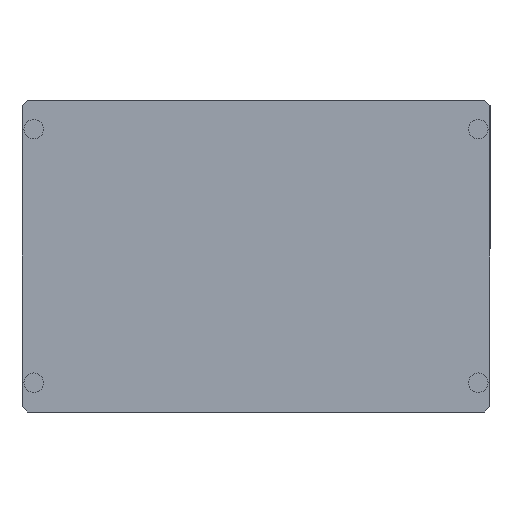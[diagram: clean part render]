
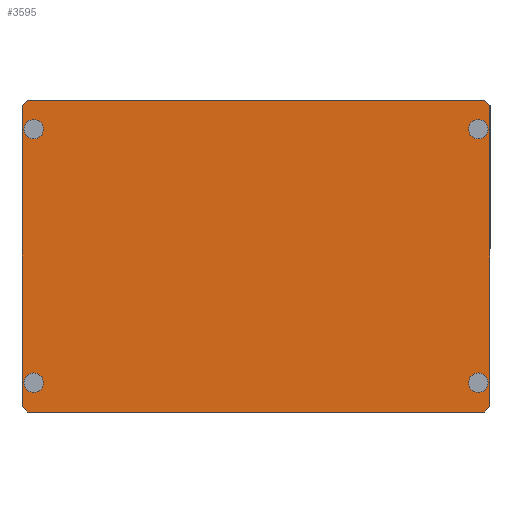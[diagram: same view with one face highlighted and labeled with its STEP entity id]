
A CAD part, front view. The second image highlights one B-rep face of the part: STEP entity #3595.
In plain terms, the highlighted planar face has unit normal (0, -1, 0).
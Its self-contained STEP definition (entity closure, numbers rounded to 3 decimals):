
#41 = EDGE_CURVE ( 'NONE', #991, #842, #3730, .T. ) ;
#47 = CARTESIAN_POINT ( 'NONE',  ( 114., 0., -60. ) ) ;
#71 = CIRCLE ( 'NONE', #2776, 5. ) ;
#79 = EDGE_CURVE ( 'NONE', #4284, #946, #5386, .T. ) ;
#85 = ORIENTED_EDGE ( 'NONE', *, *, #214, .F. ) ;
#110 = EDGE_CURVE ( 'NONE', #5429, #881, #71, .T. ) ;
#131 = EDGE_CURVE ( 'NONE', #946, #4284, #4177, .T. ) ;
#132 = EDGE_LOOP ( 'NONE', ( #5354, #4889 ) ) ;
#136 = CARTESIAN_POINT ( 'NONE',  ( -114., 0., 60. ) ) ;
#138 = EDGE_CURVE ( 'NONE', #3931, #4730, #944, .T. ) ;
#149 = EDGE_CURVE ( 'NONE', #3931, #3259, #4018, .T. ) ;
#182 = EDGE_CURVE ( 'NONE', #1666, #3259, #5243, .T. ) ;
#191 = CARTESIAN_POINT ( 'NONE',  ( 117., 0., -80. ) ) ;
#196 = EDGE_CURVE ( 'NONE', #1666, #5067, #3895, .T. ) ;
#214 = EDGE_CURVE ( 'NONE', #656, #5067, #406, .T. ) ;
#241 = EDGE_CURVE ( 'NONE', #656, #4627, #3792, .T. ) ;
#250 = EDGE_CURVE ( 'NONE', #4287, #4627, #4862, .T. ) ;
#260 = VECTOR ( 'NONE', #343, 1000. ) ;
#271 = EDGE_CURVE ( 'NONE', #4287, #4730, #2457, .T. ) ;
#283 = EDGE_CURVE ( 'NONE', #842, #991, #1289, .T. ) ;
#294 = EDGE_CURVE ( 'NONE', #1346, #3802, #1142, .T. ) ;
#296 = PLANE ( 'NONE',  #4334 ) ;
#313 = DIRECTION ( 'NONE',  ( 0., 0., -1. ) ) ;
#332 = CARTESIAN_POINT ( 'NONE',  ( 114., 0., 65. ) ) ;
#343 = DIRECTION ( 'NONE',  ( 0.707, 0., -0.707 ) ) ;
#406 = LINE ( 'NONE', #5107, #4738 ) ;
#413 = DIRECTION ( 'NONE',  ( 0., 0., 1. ) ) ;
#525 = VECTOR ( 'NONE', #3454, 1000. ) ;
#604 = CARTESIAN_POINT ( 'NONE',  ( -120., 0., -77. ) ) ;
#630 = DIRECTION ( 'NONE',  ( 0., -1., 0. ) ) ;
#654 = VECTOR ( 'NONE', #3740, 1000. ) ;
#656 = VERTEX_POINT ( 'NONE', #604 ) ;
#660 = CARTESIAN_POINT ( 'NONE',  ( 120., 0., -77. ) ) ;
#811 = ORIENTED_EDGE ( 'NONE', *, *, #4170, .F. ) ;
#818 = DIRECTION ( 'NONE',  ( 0., -1., 0. ) ) ;
#825 = CARTESIAN_POINT ( 'NONE',  ( -117., 0., -80. ) ) ;
#842 = VERTEX_POINT ( 'NONE', #47 ) ;
#881 = VERTEX_POINT ( 'NONE', #136 ) ;
#902 = CARTESIAN_POINT ( 'NONE',  ( -114., 0., 65. ) ) ;
#914 = ORIENTED_EDGE ( 'NONE', *, *, #294, .F. ) ;
#944 = LINE ( 'NONE', #2930, #1983 ) ;
#946 = VERTEX_POINT ( 'NONE', #3906 ) ;
#991 = VERTEX_POINT ( 'NONE', #4471 ) ;
#1005 = ORIENTED_EDGE ( 'NONE', *, *, #271, .T. ) ;
#1142 = CIRCLE ( 'NONE', #3696, 5. ) ;
#1188 = DIRECTION ( 'NONE',  ( 0., -1., 0. ) ) ;
#1222 = DIRECTION ( 'NONE',  ( 1., 0., 0. ) ) ;
#1238 = DIRECTION ( 'NONE',  ( 0., -1., 0. ) ) ;
#1278 = CARTESIAN_POINT ( 'NONE',  ( 114., 0., 65. ) ) ;
#1289 = CIRCLE ( 'NONE', #4715, 5. ) ;
#1296 = ORIENTED_EDGE ( 'NONE', *, *, #138, .F. ) ;
#1337 = DIRECTION ( 'NONE',  ( 0., 0., 1. ) ) ;
#1346 = VERTEX_POINT ( 'NONE', #3606 ) ;
#1529 = EDGE_LOOP ( 'NONE', ( #914, #5099 ) ) ;
#1629 = DIRECTION ( 'NONE',  ( 0., 0., 1. ) ) ;
#1644 = CARTESIAN_POINT ( 'NONE',  ( 120., 0., 77. ) ) ;
#1666 = VERTEX_POINT ( 'NONE', #4126 ) ;
#1693 = ORIENTED_EDGE ( 'NONE', *, *, #241, .T. ) ;
#1731 = DIRECTION ( 'NONE',  ( 0., 0., 1. ) ) ;
#1796 = CIRCLE ( 'NONE', #3752, 5. ) ;
#1983 = VECTOR ( 'NONE', #313, 1000. ) ;
#2008 = ORIENTED_EDGE ( 'NONE', *, *, #182, .F. ) ;
#2102 = CARTESIAN_POINT ( 'NONE',  ( -120., 0., -80. ) ) ;
#2122 = DIRECTION ( 'NONE',  ( 0.707, 0., 0.707 ) ) ;
#2296 = ORIENTED_EDGE ( 'NONE', *, *, #41, .F. ) ;
#2328 = EDGE_LOOP ( 'NONE', ( #1296, #2505, #2008, #2700, #85, #1693, #4630, #1005 ) ) ;
#2398 = AXIS2_PLACEMENT_3D ( 'NONE', #332, #3324, #3316 ) ;
#2457 = LINE ( 'NONE', #4969, #4628 ) ;
#2505 = ORIENTED_EDGE ( 'NONE', *, *, #149, .T. ) ;
#2667 = CARTESIAN_POINT ( 'NONE',  ( -117., 0., 80. ) ) ;
#2681 = FACE_OUTER_BOUND ( 'NONE', #2328, .T. ) ;
#2700 = ORIENTED_EDGE ( 'NONE', *, *, #196, .T. ) ;
#2776 = AXIS2_PLACEMENT_3D ( 'NONE', #3713, #1188, #4118 ) ;
#2798 = FACE_BOUND ( 'NONE', #4185, .T. ) ;
#2825 = CARTESIAN_POINT ( 'NONE',  ( 117., 0., 80. ) ) ;
#2834 = VECTOR ( 'NONE', #1222, 1000. ) ;
#2870 = CARTESIAN_POINT ( 'NONE',  ( -114., 0., 70. ) ) ;
#2897 = CARTESIAN_POINT ( 'NONE',  ( 120., 0., 77. ) ) ;
#2930 = CARTESIAN_POINT ( 'NONE',  ( 120., 0., -80. ) ) ;
#3000 = DIRECTION ( 'NONE',  ( 0., -1., 0. ) ) ;
#3097 = VECTOR ( 'NONE', #5369, 1000. ) ;
#3211 = CARTESIAN_POINT ( 'NONE',  ( -114., 0., -65. ) ) ;
#3259 = VERTEX_POINT ( 'NONE', #2825 ) ;
#3316 = DIRECTION ( 'NONE',  ( 0., 0., 1. ) ) ;
#3319 = AXIS2_PLACEMENT_3D ( 'NONE', #5423, #3000, #413 ) ;
#3324 = DIRECTION ( 'NONE',  ( 0., -1., 0. ) ) ;
#3367 = CARTESIAN_POINT ( 'NONE',  ( -114., 0., -65. ) ) ;
#3432 = AXIS2_PLACEMENT_3D ( 'NONE', #1278, #4208, #1731 ) ;
#3449 = EDGE_CURVE ( 'NONE', #3802, #1346, #4266, .T. ) ;
#3454 = DIRECTION ( 'NONE',  ( -0.707, 0., -0.707 ) ) ;
#3470 = DIRECTION ( 'NONE',  ( 0., 0., 1. ) ) ;
#3595 = ADVANCED_FACE ( 'NONE', ( #2798, #4707, #2681, #4822, #3608 ), #296, .F. ) ;
#3606 = CARTESIAN_POINT ( 'NONE',  ( -114., 0., -60. ) ) ;
#3608 = FACE_BOUND ( 'NONE', #1529, .T. ) ;
#3613 = DIRECTION ( 'NONE',  ( 0., 0., 1. ) ) ;
#3696 = AXIS2_PLACEMENT_3D ( 'NONE', #3367, #818, #3777 ) ;
#3713 = CARTESIAN_POINT ( 'NONE',  ( -114., 0., 65. ) ) ;
#3730 = CIRCLE ( 'NONE', #3319, 5. ) ;
#3740 = DIRECTION ( 'NONE',  ( -1., 0., 0. ) ) ;
#3752 = AXIS2_PLACEMENT_3D ( 'NONE', #902, #3845, #1337 ) ;
#3762 = CARTESIAN_POINT ( 'NONE',  ( 114., 0., -65. ) ) ;
#3777 = DIRECTION ( 'NONE',  ( 0., 0., 1. ) ) ;
#3792 = LINE ( 'NONE', #5355, #260 ) ;
#3802 = VERTEX_POINT ( 'NONE', #4615 ) ;
#3845 = DIRECTION ( 'NONE',  ( 0., -1., 0. ) ) ;
#3884 = CARTESIAN_POINT ( 'NONE',  ( 114., 0., 60. ) ) ;
#3895 = LINE ( 'NONE', #2667, #525 ) ;
#3906 = CARTESIAN_POINT ( 'NONE',  ( 114., 0., 70. ) ) ;
#3931 = VERTEX_POINT ( 'NONE', #2897 ) ;
#4018 = LINE ( 'NONE', #1644, #3097 ) ;
#4117 = DIRECTION ( 'NONE',  ( 0., 1., 0. ) ) ;
#4118 = DIRECTION ( 'NONE',  ( 0., 0., 1. ) ) ;
#4126 = CARTESIAN_POINT ( 'NONE',  ( -117., 0., 80. ) ) ;
#4153 = CARTESIAN_POINT ( 'NONE',  ( -120., 0., 80. ) ) ;
#4168 = DIRECTION ( 'NONE',  ( 0., 0., 1. ) ) ;
#4170 = EDGE_CURVE ( 'NONE', #881, #5429, #1796, .T. ) ;
#4177 = CIRCLE ( 'NONE', #2398, 5. ) ;
#4185 = EDGE_LOOP ( 'NONE', ( #4457, #811 ) ) ;
#4208 = DIRECTION ( 'NONE',  ( 0., -1., 0. ) ) ;
#4266 = CIRCLE ( 'NONE', #4562, 5. ) ;
#4284 = VERTEX_POINT ( 'NONE', #3884 ) ;
#4287 = VERTEX_POINT ( 'NONE', #191 ) ;
#4305 = ORIENTED_EDGE ( 'NONE', *, *, #283, .F. ) ;
#4334 = AXIS2_PLACEMENT_3D ( 'NONE', #4918, #4117, #1629 ) ;
#4457 = ORIENTED_EDGE ( 'NONE', *, *, #110, .F. ) ;
#4471 = CARTESIAN_POINT ( 'NONE',  ( 114., 0., -70. ) ) ;
#4562 = AXIS2_PLACEMENT_3D ( 'NONE', #3211, #630, #3613 ) ;
#4615 = CARTESIAN_POINT ( 'NONE',  ( -114., 0., -70. ) ) ;
#4627 = VERTEX_POINT ( 'NONE', #825 ) ;
#4628 = VECTOR ( 'NONE', #2122, 1000. ) ;
#4630 = ORIENTED_EDGE ( 'NONE', *, *, #250, .F. ) ;
#4707 = FACE_BOUND ( 'NONE', #132, .T. ) ;
#4715 = AXIS2_PLACEMENT_3D ( 'NONE', #3762, #1238, #4168 ) ;
#4730 = VERTEX_POINT ( 'NONE', #660 ) ;
#4738 = VECTOR ( 'NONE', #3470, 1000. ) ;
#4822 = FACE_BOUND ( 'NONE', #5399, .T. ) ;
#4862 = LINE ( 'NONE', #2102, #654 ) ;
#4889 = ORIENTED_EDGE ( 'NONE', *, *, #79, .F. ) ;
#4918 = CARTESIAN_POINT ( 'NONE',  ( 0., 0., 0. ) ) ;
#4969 = CARTESIAN_POINT ( 'NONE',  ( 117., 0., -80. ) ) ;
#5035 = CARTESIAN_POINT ( 'NONE',  ( -120., 0., 77. ) ) ;
#5067 = VERTEX_POINT ( 'NONE', #5035 ) ;
#5099 = ORIENTED_EDGE ( 'NONE', *, *, #3449, .F. ) ;
#5107 = CARTESIAN_POINT ( 'NONE',  ( -120., 0., -80. ) ) ;
#5243 = LINE ( 'NONE', #4153, #2834 ) ;
#5354 = ORIENTED_EDGE ( 'NONE', *, *, #131, .F. ) ;
#5355 = CARTESIAN_POINT ( 'NONE',  ( -120., 0., -77. ) ) ;
#5369 = DIRECTION ( 'NONE',  ( -0.707, 0., 0.707 ) ) ;
#5386 = CIRCLE ( 'NONE', #3432, 5. ) ;
#5399 = EDGE_LOOP ( 'NONE', ( #4305, #2296 ) ) ;
#5423 = CARTESIAN_POINT ( 'NONE',  ( 114., 0., -65. ) ) ;
#5429 = VERTEX_POINT ( 'NONE', #2870 ) ;
